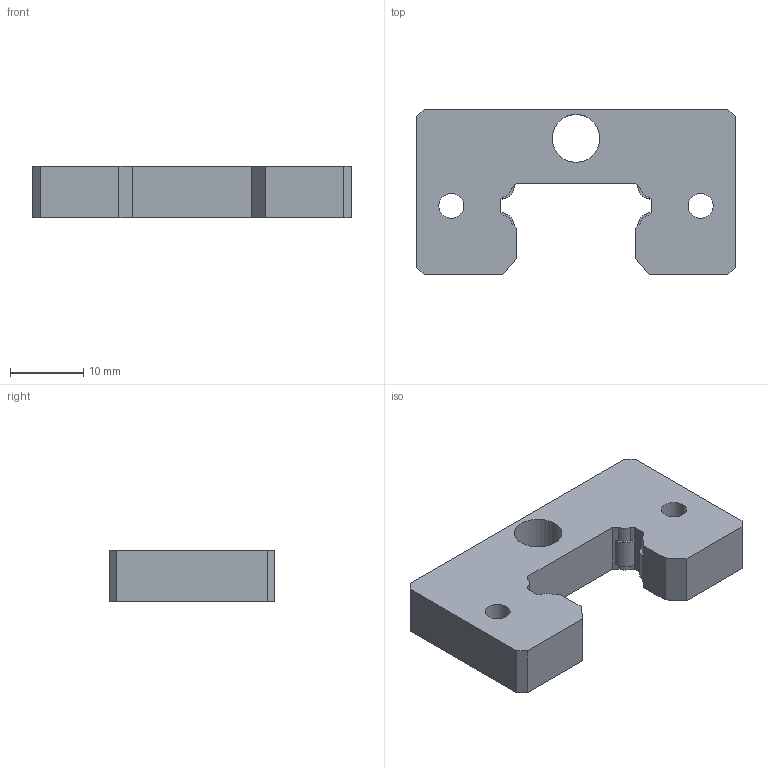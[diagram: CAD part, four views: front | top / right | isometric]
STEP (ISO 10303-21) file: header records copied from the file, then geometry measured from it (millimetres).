
FILE_DESCRIPTION (( 'STEP AP203' ), '1' );
FILE_NAME ('MF 20A (FV,SV,CL,CLL).STEP', '2014-12-02T23:39:23', ( 'john' ), ( '' ), 'SwSTEP 2.0', 'SolidWorks 2013', '' );
FILE_SCHEMA (( 'CONFIG_CONTROL_DESIGN' ));
Length unit declared in the file: millimetre
Products named in the file (1): MF 20A (FV,SV,CL,CLL)
Bounding box: 43.4 x 22.6 x 7 mm (x, y, z)
Volume: 4953.4 mm3; surface area: 2806.3 mm2
Topology: 1 solids, 1 shells, 49 faces, 141 edges, 94 vertices
Faces by surface type: plane 34, cylinder 15
Full cylindrical faces by diameter (mm): 3.4 x2, 6.5 x1
Entity records: 1679 total; most frequent: CARTESIAN_POINT 282, ORIENTED_EDGE 276, DIRECTION 268, EDGE_CURVE 138, LINE 108, VECTOR 108, VERTEX_POINT 94, AXIS2_PLACEMENT_3D 80
